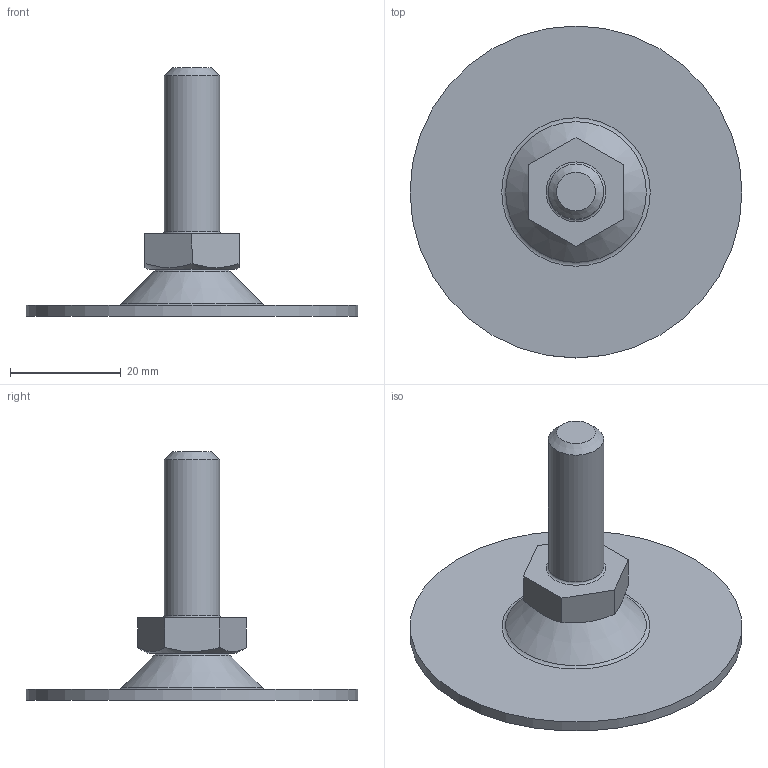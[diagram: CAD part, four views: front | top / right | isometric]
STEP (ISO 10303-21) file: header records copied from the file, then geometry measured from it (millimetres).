
FILE_DESCRIPTION(('STEP AP203'), '1');
FILE_NAME('A00050.1061016', '', ('UNSPECIFIED'), ('UNSPECIFIED'), 'C3D Converter', 'C3D Toolkit', '');
FILE_SCHEMA(('CONFIG_CONTROL_DESIGN'));
Length unit declared in the file: millimetre
Products named in the file (4): A00050.1061030; A00050.1160
Assembly tree (3 placements, depth 2):
  A00050.1061030
    A00050.1160
    (unnamed)
    (unnamed)
Bounding box: 60 x 60 x 44.93 mm (x, y, z)
Volume: 9851.1 mm3; surface area: 8529.4 mm2
Topology: 3 solids, 3 shells, 58 faces, 130 edges, 82 vertices
Faces by surface type: plane 28, torus 8, bspline 8, cone 7, cylinder 6, sphere 1
Full cylindrical faces by diameter (mm): 3.3 x1, 4 x1, 4.5 x1, 8 x1, 10 x1, 60 x1
Entity records: 2171 total; most frequent: CARTESIAN_POINT 784, DIRECTION 242, ORIENTED_EDGE 214, EDGE_CURVE 107, AXIS2_PLACEMENT_3D 95, EDGE_LOOP 86, VERTEX_POINT 81, ADVANCED_FACE 58
